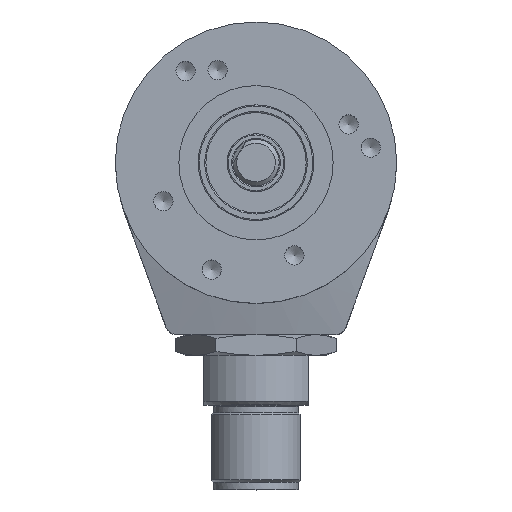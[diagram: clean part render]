
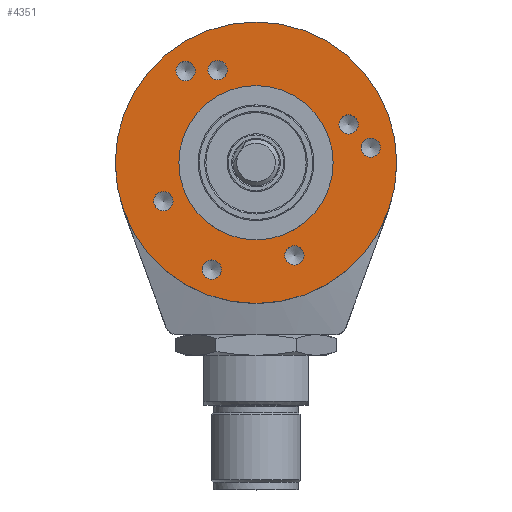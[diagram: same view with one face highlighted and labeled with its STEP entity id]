
A CAD part, top view. The second image highlights one B-rep face of the part: STEP entity #4351.
In plain terms, the highlighted planar face has unit normal (0, 0, 1).
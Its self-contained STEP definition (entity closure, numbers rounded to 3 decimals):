
#1 = ORIENTED_EDGE ( 'NONE', *, *, #1366, .F. ) ;
#45 = ORIENTED_EDGE ( 'NONE', *, *, #5112, .F. ) ;
#56 = ORIENTED_EDGE ( 'NONE', *, *, #1384, .F. ) ;
#147 = ORIENTED_EDGE ( 'NONE', *, *, #1408, .F. ) ;
#175 = ORIENTED_EDGE ( 'NONE', *, *, #1249, .F. ) ;
#238 = ORIENTED_EDGE ( 'NONE', *, *, #5445, .F. ) ;
#303 = ORIENTED_EDGE ( 'NONE', *, *, #5141, .F. ) ;
#305 = ORIENTED_EDGE ( 'NONE', *, *, #1367, .F. ) ;
#306 = ORIENTED_EDGE ( 'NONE', *, *, #1381, .F. ) ;
#847 = CARTESIAN_POINT ( 'NONE',  ( 8.441, -3.404, 8.336 ) ) ;
#848 = DIRECTION ( 'NONE',  ( 0., 0., 1. ) ) ;
#849 = DIRECTION ( 'NONE',  ( 1., 0., 0. ) ) ;
#925 = CARTESIAN_POINT ( 'NONE',  ( -10.92, -19.22, 8.336 ) ) ;
#940 = CARTESIAN_POINT ( 'NONE',  ( 6.83, -0.387, 8.336 ) ) ;
#941 = CARTESIAN_POINT ( 'NONE',  ( -0.205, -17.372, 8.336 ) ) ;
#946 = CARTESIAN_POINT ( 'NONE',  ( -14.312, 6.539, 8.336 ) ) ;
#948 = CARTESIAN_POINT ( 'NONE',  ( -17.191, -10.336, 8.336 ) ) ;
#963 = CARTESIAN_POINT ( 'NONE',  ( 3.57, -5.361, 8.336 ) ) ;
#974 = CARTESIAN_POINT ( 'NONE',  ( -10.155, 6.649, 8.336 ) ) ;
#985 = CARTESIAN_POINT ( 'NONE',  ( 11.82, -5.361, 8.336 ) ) ;
#993 = CARTESIAN_POINT ( 'NONE',  ( 9.691, -3.404, 8.336 ) ) ;
#1128 = AXIS2_PLACEMENT_3D ( 'NONE', #3563, #3566, #3569 ) ;
#1129 = AXIS2_PLACEMENT_3D ( 'NONE', #4234, #4232, #4231 ) ;
#1139 = AXIS2_PLACEMENT_3D ( 'NONE', #3809, #3813, #3817 ) ;
#1144 = AXIS2_PLACEMENT_3D ( 'NONE', #3790, #3794, #3798 ) ;
#1175 = AXIS2_PLACEMENT_3D ( 'NONE', #6218, #6220, #6222 ) ;
#1198 = AXIS2_PLACEMENT_3D ( 'NONE', #3530, #3533, #3536 ) ;
#1249 = EDGE_CURVE ( 'NONE', #2477, #2477, #1810, .T. ) ;
#1366 = EDGE_CURVE ( 'NONE', #2574, #2574, #2312, .T. ) ;
#1367 = EDGE_CURVE ( 'NONE', #2584, #2584, #2313, .T. ) ;
#1381 = EDGE_CURVE ( 'NONE', #2599, #2599, #1908, .T. ) ;
#1384 = EDGE_CURVE ( 'NONE', #2535, #2535, #1549, .T. ) ;
#1408 = EDGE_CURVE ( 'NONE', #1537, #1537, #2340, .T. ) ;
#1507 = VERTEX_POINT ( 'NONE', #993 ) ;
#1515 = VERTEX_POINT ( 'NONE', #985 ) ;
#1526 = VERTEX_POINT ( 'NONE', #974 ) ;
#1537 = VERTEX_POINT ( 'NONE', #963 ) ;
#1549 = CIRCLE ( 'NONE', #1128, 1.25 ) ;
#1810 = CIRCLE ( 'NONE', #1175, 1.25 ) ;
#1856 = FACE_BOUND ( 'NONE', #2183, .T. ) ;
#1876 = FACE_BOUND ( 'NONE', #2208, .T. ) ;
#1884 = FACE_BOUND ( 'NONE', #2199, .T. ) ;
#1892 = FACE_BOUND ( 'NONE', #1983, .T. ) ;
#1896 = FACE_BOUND ( 'NONE', #2190, .T. ) ;
#1905 = FACE_BOUND ( 'NONE', #2201, .T. ) ;
#1908 = CIRCLE ( 'NONE', #1198, 1.25 ) ;
#1924 = FACE_OUTER_BOUND ( 'NONE', #2196, .T. ) ;
#1926 = FACE_BOUND ( 'NONE', #1984, .T. ) ;
#1942 = FACE_BOUND ( 'NONE', #2198, .T. ) ;
#1983 = EDGE_LOOP ( 'NONE', ( #1 ) ) ;
#1984 = EDGE_LOOP ( 'NONE', ( #305 ) ) ;
#2183 = EDGE_LOOP ( 'NONE', ( #147 ) ) ;
#2190 = EDGE_LOOP ( 'NONE', ( #45 ) ) ;
#2196 = EDGE_LOOP ( 'NONE', ( #303 ) ) ;
#2198 = EDGE_LOOP ( 'NONE', ( #175 ) ) ;
#2199 = EDGE_LOOP ( 'NONE', ( #238 ) ) ;
#2201 = EDGE_LOOP ( 'NONE', ( #56 ) ) ;
#2208 = EDGE_LOOP ( 'NONE', ( #306 ) ) ;
#2312 = CIRCLE ( 'NONE', #1144, 1.25 ) ;
#2313 = CIRCLE ( 'NONE', #1139, 1.25 ) ;
#2340 = CIRCLE ( 'NONE', #1129, 10. ) ;
#2460 = CIRCLE ( 'NONE', #2638, 1.25 ) ;
#2477 = VERTEX_POINT ( 'NONE', #925 ) ;
#2486 = CIRCLE ( 'NONE', #2648, 18.25 ) ;
#2535 = VERTEX_POINT ( 'NONE', #948 ) ;
#2549 = CIRCLE ( 'NONE', #2664, 1.25 ) ;
#2574 = VERTEX_POINT ( 'NONE', #940 ) ;
#2584 = VERTEX_POINT ( 'NONE', #941 ) ;
#2599 = VERTEX_POINT ( 'NONE', #946 ) ;
#2638 = AXIS2_PLACEMENT_3D ( 'NONE', #847, #848, #849 ) ;
#2648 = AXIS2_PLACEMENT_3D ( 'NONE', #5621, #5622, #5623 ) ;
#2664 = AXIS2_PLACEMENT_3D ( 'NONE', #5380, #5381, #5382 ) ;
#3256 = DIRECTION ( 'NONE',  ( 0., 0., -1. ) ) ;
#3257 = CARTESIAN_POINT ( 'NONE',  ( -15.09, -0.361, 8.336 ) ) ;
#3264 = PLANE ( 'NONE',  #6670 ) ;
#3266 = DIRECTION ( 'NONE',  ( -1., 0., 0. ) ) ;
#3530 = CARTESIAN_POINT ( 'NONE',  ( -15.562, 6.539, 8.336 ) ) ;
#3533 = DIRECTION ( 'NONE',  ( 0., 0., 1. ) ) ;
#3536 = DIRECTION ( 'NONE',  ( 1., 0., 0. ) ) ;
#3563 = CARTESIAN_POINT ( 'NONE',  ( -18.441, -10.336, 8.336 ) ) ;
#3566 = DIRECTION ( 'NONE',  ( 0., 0., 1. ) ) ;
#3569 = DIRECTION ( 'NONE',  ( 1., 0., 0. ) ) ;
#3790 = CARTESIAN_POINT ( 'NONE',  ( 5.58, -0.387, 8.336 ) ) ;
#3794 = DIRECTION ( 'NONE',  ( 0., 0., 1. ) ) ;
#3798 = DIRECTION ( 'NONE',  ( 1., 0., 0. ) ) ;
#3809 = CARTESIAN_POINT ( 'NONE',  ( -1.455, -17.372, 8.336 ) ) ;
#3813 = DIRECTION ( 'NONE',  ( 0., 0., 1. ) ) ;
#3817 = DIRECTION ( 'NONE',  ( 1., 0., 0. ) ) ;
#4231 = DIRECTION ( 'NONE',  ( 1., 0., 0. ) ) ;
#4232 = DIRECTION ( 'NONE',  ( 0., 0., 1. ) ) ;
#4234 = CARTESIAN_POINT ( 'NONE',  ( -6.43, -5.361, 8.336 ) ) ;
#4351 = ADVANCED_FACE ( 'NONE', ( #1924, #1856, #1892, #1926, #1896, #1905, #1884, #1942, #1876 ), #3264, .F. ) ;
#5112 = EDGE_CURVE ( 'NONE', #1526, #1526, #2549, .T. ) ;
#5141 = EDGE_CURVE ( 'NONE', #1515, #1515, #2486, .T. ) ;
#5380 = CARTESIAN_POINT ( 'NONE',  ( -11.405, 6.649, 8.336 ) ) ;
#5381 = DIRECTION ( 'NONE',  ( 0., 0., 1. ) ) ;
#5382 = DIRECTION ( 'NONE',  ( 1., 0., 0. ) ) ;
#5445 = EDGE_CURVE ( 'NONE', #1507, #1507, #2460, .T. ) ;
#5621 = CARTESIAN_POINT ( 'NONE',  ( -6.43, -5.361, 8.336 ) ) ;
#5622 = DIRECTION ( 'NONE',  ( 0., 0., -1. ) ) ;
#5623 = DIRECTION ( 'NONE',  ( 1., 0., 0. ) ) ;
#6218 = CARTESIAN_POINT ( 'NONE',  ( -12.17, -19.22, 8.336 ) ) ;
#6220 = DIRECTION ( 'NONE',  ( 0., 0., 1. ) ) ;
#6222 = DIRECTION ( 'NONE',  ( 1., 0., 0. ) ) ;
#6670 = AXIS2_PLACEMENT_3D ( 'NONE', #3257, #3256, #3266 ) ;
